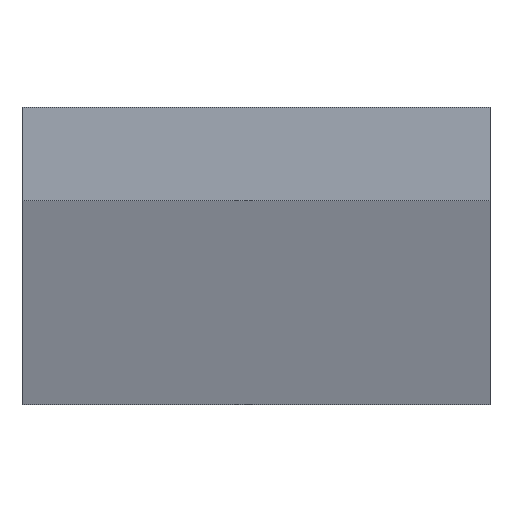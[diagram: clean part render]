
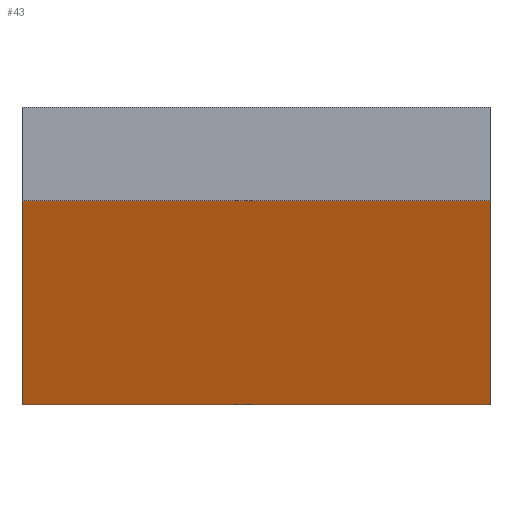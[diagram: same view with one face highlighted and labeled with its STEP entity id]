
A CAD part, top view. The second image highlights one B-rep face of the part: STEP entity #43.
In plain terms, the highlighted planar face has unit normal (0, -1, 0).
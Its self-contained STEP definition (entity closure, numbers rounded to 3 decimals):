
#43=ADVANCED_FACE('',(#55),#49,.T.);
#49=PLANE('',#136);
#55=FACE_OUTER_BOUND('',#61,.T.);
#61=EDGE_LOOP('',(#70,#71,#72,#73));
#70=ORIENTED_EDGE('',*,*,#102,.F.);
#71=ORIENTED_EDGE('',*,*,#103,.F.);
#72=ORIENTED_EDGE('',*,*,#104,.T.);
#73=ORIENTED_EDGE('',*,*,#99,.T.);
#90=VERTEX_POINT('',#169);
#92=VERTEX_POINT('',#172);
#94=VERTEX_POINT('',#178);
#95=VERTEX_POINT('',#180);
#99=EDGE_CURVE('',#92,#90,#111,.T.);
#102=EDGE_CURVE('',#94,#90,#114,.T.);
#103=EDGE_CURVE('',#95,#94,#115,.T.);
#104=EDGE_CURVE('',#95,#92,#116,.T.);
#111=LINE('',#171,#123);
#114=LINE('',#177,#126);
#115=LINE('',#179,#127);
#116=LINE('',#181,#128);
#123=VECTOR('',#144,1.);
#126=VECTOR('',#149,1.);
#127=VECTOR('',#150,1.);
#128=VECTOR('',#151,1.);
#136=AXIS2_PLACEMENT_3D('',#182,#152,#153);
#144=DIRECTION('',(0.,0.,1.));
#149=DIRECTION('',(1.,0.,0.));
#150=DIRECTION('',(0.,0.,1.));
#151=DIRECTION('',(1.,0.,0.));
#152=DIRECTION('',(0.,-1.,0.));
#153=DIRECTION('',(0.,0.,-1.));
#169=CARTESIAN_POINT('',(5.,-1.,0.));
#171=CARTESIAN_POINT('',(5.,-1.,-100.));
#172=CARTESIAN_POINT('',(5.,-1.,-2500.));
#177=CARTESIAN_POINT('',(-5.,-1.,0.));
#178=CARTESIAN_POINT('',(-5.,-1.,0.));
#179=CARTESIAN_POINT('',(-5.,-1.,-100.));
#180=CARTESIAN_POINT('',(-5.,-1.,-2500.));
#181=CARTESIAN_POINT('',(-5.,-1.,-2500.));
#182=CARTESIAN_POINT('',(-5.,-1.,-100.));
